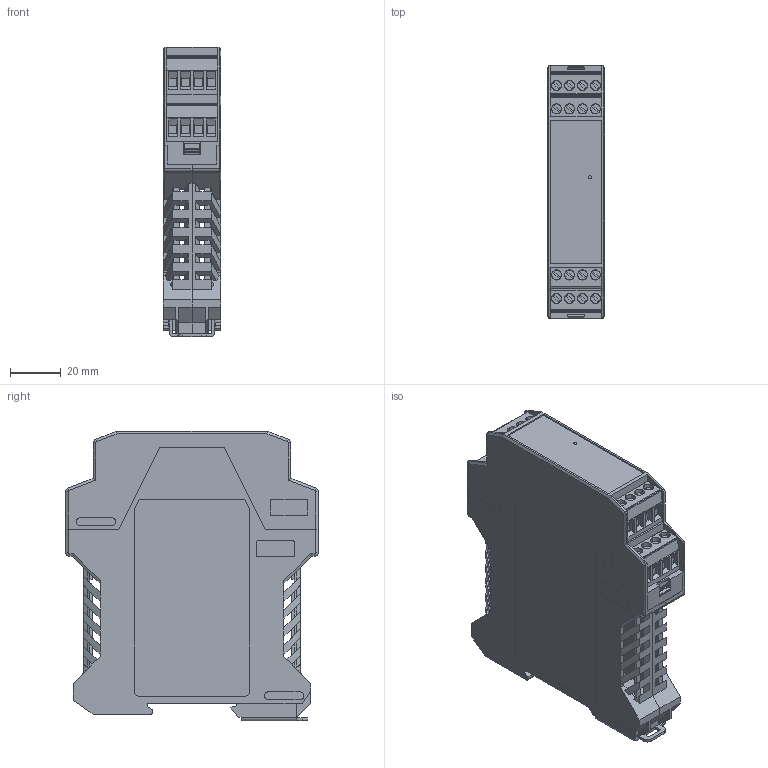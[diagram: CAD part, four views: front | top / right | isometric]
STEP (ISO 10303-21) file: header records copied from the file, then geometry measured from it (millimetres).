
FILE_DESCRIPTION(('STEP AP203'),'1');
FILE_NAME('1330801.stp','2024-11-12T07:16:51',('TraceParts'),('TraceParts S.A.'),'Spatial InterOp 3D',' ',' ');
FILE_SCHEMA(('CONFIG_CONTROL_DESIGN'));
Length unit declared in the file: millimetre
Products named in the file (1): 1
Bounding box: 22.6 x 99 x 113.6 mm (x, y, z)
Volume: 64690.6 mm3; surface area: 67433.4 mm2
Topology: 11 solids, 11 shells, 1982 faces, 5435 edges, 3500 vertices
Faces by surface type: plane 1494, cylinder 434, bspline 32, cone 12, torus 10
Entity records: 62965 total; most frequent: CARTESIAN_POINT 11736, ORIENTED_EDGE 10870, DIRECTION 10367, EDGE_CURVE 5435, LINE 4361, VECTOR 4361, VERTEX_POINT 3500, AXIS2_PLACEMENT_3D 3003
